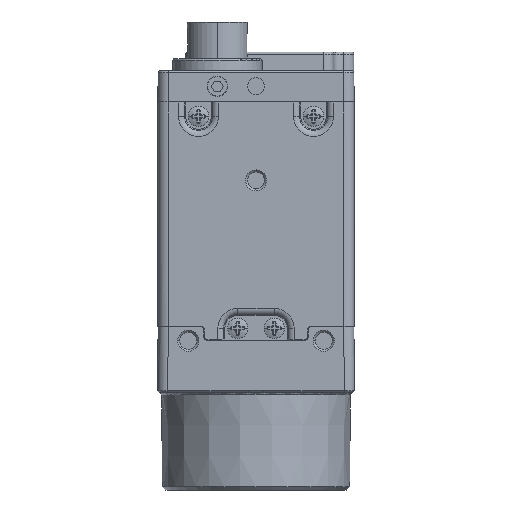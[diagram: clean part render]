
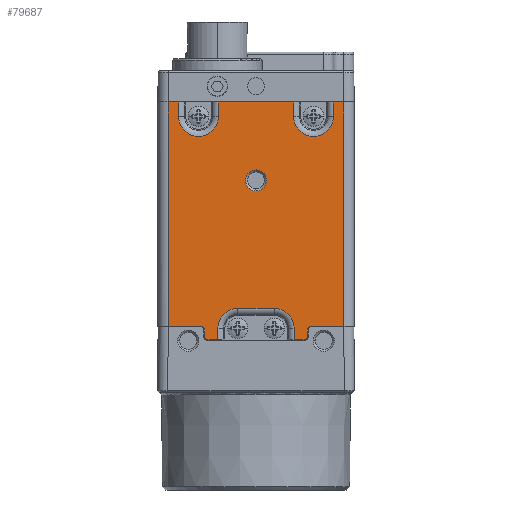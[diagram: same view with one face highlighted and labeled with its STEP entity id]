
A CAD part, front view. The second image highlights one B-rep face of the part: STEP entity #79687.
In plain terms, the highlighted planar face has unit normal (0, -1, 0).
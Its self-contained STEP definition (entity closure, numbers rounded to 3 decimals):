
#3748=DIRECTION('',(0.,0.,1.));
#3749=VECTOR('',#3748,33.165);
#3750=CARTESIAN_POINT('',(12.977,-14.4,4.217));
#3751=LINE('',#3750,#3749);
#3763=DIRECTION('',(1.,0.,0.));
#3764=VECTOR('',#3763,4.877);
#3765=CARTESIAN_POINT('',(8.1,-14.4,4.217));
#3766=LINE('',#3765,#3764);
#4068=DIRECTION('',(1.,0.,0.));
#4069=VECTOR('',#4068,4.877);
#4070=CARTESIAN_POINT('',(-12.977,-14.4,4.217));
#4071=LINE('',#4070,#4069);
#27743=DIRECTION('',(1.,0.,0.));
#27744=VECTOR('',#27743,1.461);
#27745=CARTESIAN_POINT('',(-7.1,-14.4,2.217));
#27746=LINE('',#27745,#27744);
#27765=DIRECTION('',(1.,0.,0.));
#27766=VECTOR('',#27765,1.461);
#27767=CARTESIAN_POINT('',(5.639,-14.4,
2.217));
#27768=LINE('',#27767,#27766);
#27871=DIRECTION('',(0.,0.,-1.));
#27872=VECTOR('',#27871,1.);
#27873=CARTESIAN_POINT('',(-7.583,-14.4,3.7));
#27874=LINE('',#27873,#27872);
#27879=DIRECTION('',(0.,0.,1.));
#27880=VECTOR('',#27879,33.165);
#27881=CARTESIAN_POINT('',(-12.977,-14.4,4.217));
#27882=LINE('',#27881,#27880);
#27883=CARTESIAN_POINT('',(-8.5,-14.4,35.25));
#27884=DIRECTION('',(0.,-1.,0.));
#27885=DIRECTION('',(-1.,0.,0.));
#27886=AXIS2_PLACEMENT_3D('',#27883,#27884,#27885);
#27888=CARTESIAN_POINT('',(8.5,-14.4,35.25));
#27889=DIRECTION('',(0.,-1.,0.));
#27890=DIRECTION('',(-1.,0.,0.));
#27891=AXIS2_PLACEMENT_3D('',#27888,#27889,#27890);
#27893=DIRECTION('',(0.,0.,1.));
#27894=VECTOR('',#27893,2.133);
#27895=CARTESIAN_POINT('',(11.439,-14.4,35.25));
#27896=LINE('',#27895,#27894);
#27897=CARTESIAN_POINT('',(8.1,-14.4,3.7));
#27898=DIRECTION('',(0.,-1.,0.));
#27899=DIRECTION('',(0.,0.,1.));
#27900=AXIS2_PLACEMENT_3D('',#27897,#27898,#27899);
#27902=CARTESIAN_POINT('',(7.1,-14.4,2.7));
#27903=DIRECTION('',(0.,1.,0.));
#27904=DIRECTION('',(1.,0.,0.));
#27905=AXIS2_PLACEMENT_3D('',#27902,#27903,#27904);
#27907=CARTESIAN_POINT('',(2.7,-14.4,3.95));
#27908=DIRECTION('',(0.,-1.,0.));
#27909=DIRECTION('',(1.,0.,0.));
#27910=AXIS2_PLACEMENT_3D('',#27907,#27908,#27909);
#27912=CARTESIAN_POINT('',(-2.7,-14.4,3.95));
#27913=DIRECTION('',(0.,-1.,0.));
#27914=DIRECTION('',(0.,0.,1.));
#27915=AXIS2_PLACEMENT_3D('',#27912,#27913,#27914);
#27917=CARTESIAN_POINT('',(-7.1,-14.4,2.7));
#27918=DIRECTION('',(0.,1.,0.));
#27919=DIRECTION('',(0.,0.,-1.));
#27920=AXIS2_PLACEMENT_3D('',#27917,#27918,#27919);
#27922=CARTESIAN_POINT('',(-8.1,-14.4,3.7));
#27923=DIRECTION('',(0.,-1.,0.));
#27924=DIRECTION('',(1.,0.,0.));
#27925=AXIS2_PLACEMENT_3D('',#27922,#27923,#27924);
#27927=CARTESIAN_POINT('',(0.,-14.4,25.8));
#27928=DIRECTION('',(0.,-1.,0.));
#27929=DIRECTION('',(0.,0.,1.));
#27930=AXIS2_PLACEMENT_3D('',#27927,#27928,#27929);
#27932=CARTESIAN_POINT('',(0.,-14.4,25.8));
#27933=DIRECTION('',(0.,-1.,0.));
#27934=DIRECTION('',(0.,0.,-1.));
#27935=AXIS2_PLACEMENT_3D('',#27932,#27933,#27934);
#27959=DIRECTION('',(-1.,0.,0.));
#27960=VECTOR('',#27959,1.538);
#27961=CARTESIAN_POINT('',(-11.439,-14.4,
37.383));
#27962=LINE('',#27961,#27960);
#28006=DIRECTION('',(-1.,0.,0.));
#28007=VECTOR('',#28006,1.538);
#28008=CARTESIAN_POINT('',(12.977,-14.4,37.383));
#28009=LINE('',#28008,#28007);
#28030=DIRECTION('',(-1.,0.,0.));
#28031=VECTOR('',#28030,11.122);
#28032=CARTESIAN_POINT('',(5.561,-14.4,
37.383));
#28033=LINE('',#28032,#28031);
#28092=DIRECTION('',(0.,0.,1.));
#28093=VECTOR('',#28092,2.133);
#28094=CARTESIAN_POINT('',(-11.439,-14.4,35.25));
#28095=LINE('',#28094,#28093);
#28096=DIRECTION('',(0.,0.,-1.));
#28097=VECTOR('',#28096,2.133);
#28098=CARTESIAN_POINT('',(-5.561,-14.4,37.383));
#28099=LINE('',#28098,#28097);
#28995=DIRECTION('',(0.,0.,1.));
#28996=VECTOR('',#28995,2.133);
#28997=CARTESIAN_POINT('',(5.561,-14.4,35.25));
#28998=LINE('',#28997,#28996);
#29850=DIRECTION('',(0.,0.,1.));
#29851=VECTOR('',#29850,1.);
#29852=CARTESIAN_POINT('',(7.583,-14.4,2.7));
#29853=LINE('',#29852,#29851);
#29866=DIRECTION('',(0.,0.,-1.));
#29867=VECTOR('',#29866,1.733);
#29868=CARTESIAN_POINT('',(5.639,-14.4,3.95));
#29869=LINE('',#29868,#29867);
#29933=DIRECTION('',(0.,0.,1.));
#29934=VECTOR('',#29933,1.733);
#29935=CARTESIAN_POINT('',(-5.639,-14.4,2.217));
#29936=LINE('',#29935,#29934);
#29950=DIRECTION('',(1.,0.,0.));
#29951=VECTOR('',#29950,5.4);
#29952=CARTESIAN_POINT('',(-2.7,-14.4,6.889));
#29953=LINE('',#29952,#29951);
#40555=CARTESIAN_POINT('',(-12.977,-14.4,4.217));
#40556=CARTESIAN_POINT('',(-12.977,-14.4,37.383));
#40557=VERTEX_POINT('',#40555);
#40558=VERTEX_POINT('',#40556);
#40559=CARTESIAN_POINT('',(-11.439,-14.4,
37.383));
#40560=VERTEX_POINT('',#40559);
#40561=CARTESIAN_POINT('',(-11.439,-14.4,35.25));
#40562=VERTEX_POINT('',#40561);
#40563=CARTESIAN_POINT('',(-5.561,-14.4,35.25));
#40564=VERTEX_POINT('',#40563);
#40565=CARTESIAN_POINT('',(-5.561,-14.4,37.383));
#40566=VERTEX_POINT('',#40565);
#40567=CARTESIAN_POINT('',(5.561,-14.4,
37.383));
#40568=VERTEX_POINT('',#40567);
#40569=CARTESIAN_POINT('',(5.561,-14.4,35.25));
#40570=VERTEX_POINT('',#40569);
#40571=CARTESIAN_POINT('',(11.439,-14.4,35.25));
#40572=VERTEX_POINT('',#40571);
#40573=CARTESIAN_POINT('',(11.439,-14.4,37.383));
#40574=VERTEX_POINT('',#40573);
#40575=CARTESIAN_POINT('',(12.977,-14.4,37.383));
#40576=VERTEX_POINT('',#40575);
#40577=CARTESIAN_POINT('',(12.977,-14.4,4.217));
#40578=VERTEX_POINT('',#40577);
#40579=CARTESIAN_POINT('',(7.583,-14.4,2.7));
#40580=CARTESIAN_POINT('',(7.583,-14.4,3.7));
#40581=VERTEX_POINT('',#40579);
#40582=VERTEX_POINT('',#40580);
#40583=CARTESIAN_POINT('',(7.1,-14.4,2.217));
#40584=VERTEX_POINT('',#40583);
#40585=CARTESIAN_POINT('',(5.639,-14.4,
2.217));
#40586=VERTEX_POINT('',#40585);
#40587=CARTESIAN_POINT('',(5.639,-14.4,3.95));
#40588=VERTEX_POINT('',#40587);
#40589=CARTESIAN_POINT('',(2.7,-14.4,6.889));
#40590=VERTEX_POINT('',#40589);
#40591=CARTESIAN_POINT('',(-2.7,-14.4,6.889));
#40592=VERTEX_POINT('',#40591);
#40593=CARTESIAN_POINT('',(-5.639,-14.4,3.95));
#40594=VERTEX_POINT('',#40593);
#40595=CARTESIAN_POINT('',(-5.639,-14.4,2.217));
#40596=VERTEX_POINT('',#40595);
#40597=CARTESIAN_POINT('',(-7.1,-14.4,2.217));
#40598=VERTEX_POINT('',#40597);
#40599=CARTESIAN_POINT('',(-7.583,-14.4,2.7));
#40600=VERTEX_POINT('',#40599);
#40601=CARTESIAN_POINT('',(-7.583,-14.4,3.7));
#40602=VERTEX_POINT('',#40601);
#40603=CARTESIAN_POINT('',(0.,-14.4,27.35));
#40604=CARTESIAN_POINT('',(0.,-14.4,24.25));
#40605=VERTEX_POINT('',#40603);
#40606=VERTEX_POINT('',#40604);
#40627=CARTESIAN_POINT('',(8.1,-14.4,4.217));
#40628=VERTEX_POINT('',#40627);
#40631=CARTESIAN_POINT('',(-8.1,-14.4,4.217));
#40632=VERTEX_POINT('',#40631);
#79631=CARTESIAN_POINT('',(0.,-14.4,19.8));
#79632=DIRECTION('',(0.,1.,0.));
#79633=DIRECTION('',(-1.,0.,0.));
#79634=AXIS2_PLACEMENT_3D('',#79631,#79632,#79633);
#79635=PLANE('',#79634);
#79636=ORIENTED_EDGE('',*,*,#47101,.T.);
#79638=ORIENTED_EDGE('',*,*,#79637,.F.);
#79640=ORIENTED_EDGE('',*,*,#79639,.F.);
#79642=ORIENTED_EDGE('',*,*,#79641,.T.);
#79644=ORIENTED_EDGE('',*,*,#79643,.F.);
#79646=ORIENTED_EDGE('',*,*,#79645,.F.);
#79648=ORIENTED_EDGE('',*,*,#79647,.F.);
#79650=ORIENTED_EDGE('',*,*,#79649,.T.);
#79652=ORIENTED_EDGE('',*,*,#79651,.T.);
#79654=ORIENTED_EDGE('',*,*,#79653,.F.);
#79655=ORIENTED_EDGE('',*,*,#47318,.F.);
#79656=ORIENTED_EDGE('',*,*,#47342,.F.);
#79658=ORIENTED_EDGE('',*,*,#79657,.T.);
#79660=ORIENTED_EDGE('',*,*,#79659,.F.);
#79662=ORIENTED_EDGE('',*,*,#79661,.T.);
#79663=ORIENTED_EDGE('',*,*,#79457,.F.);
#79665=ORIENTED_EDGE('',*,*,#79664,.F.);
#79667=ORIENTED_EDGE('',*,*,#79666,.T.);
#79669=ORIENTED_EDGE('',*,*,#79668,.F.);
#79671=ORIENTED_EDGE('',*,*,#79670,.T.);
#79673=ORIENTED_EDGE('',*,*,#79672,.F.);
#79674=ORIENTED_EDGE('',*,*,#79445,.F.);
#79675=ORIENTED_EDGE('',*,*,#79598,.T.);
#79676=ORIENTED_EDGE('',*,*,#79613,.F.);
#79677=ORIENTED_EDGE('',*,*,#79626,.T.);
#79678=ORIENTED_EDGE('',*,*,#47886,.F.);
#79679=EDGE_LOOP('',(#79636,#79638,#79640,#79642,#79644,#79646,#79648,#79650,
#79652,#79654,#79655,#79656,#79658,#79660,#79662,#79663,#79665,#79667,#79669,
#79671,#79673,#79674,#79675,#79676,#79677,#79678));
#79680=FACE_OUTER_BOUND('',#79679,.F.);
#79682=ORIENTED_EDGE('',*,*,#79681,.T.);
#79684=ORIENTED_EDGE('',*,*,#79683,.T.);
#79685=EDGE_LOOP('',(#79682,#79684));
#79686=FACE_BOUND('',#79685,.F.);
#79687=ADVANCED_FACE('',(#79680,#79686),#79635,.F.);
#27887=CIRCLE('',#27886,2.939);
#27892=CIRCLE('',#27891,2.939);
#27901=CIRCLE('',#27900,0.517);
#27906=CIRCLE('',#27905,0.483);
#27911=CIRCLE('',#27910,2.939);
#27916=CIRCLE('',#27915,2.939);
#27921=CIRCLE('',#27920,0.483);
#27926=CIRCLE('',#27925,0.517);
#27931=CIRCLE('',#27930,1.55);
#27936=CIRCLE('',#27935,1.55);
#47101=EDGE_CURVE('',#40557,#40558,#27882,.T.);
#47318=EDGE_CURVE('',#40578,#40576,#3751,.T.);
#47342=EDGE_CURVE('',#40628,#40578,#3766,.T.);
#47886=EDGE_CURVE('',#40557,#40632,#4071,.T.);
#79445=EDGE_CURVE('',#40598,#40596,#27746,.T.);
#79457=EDGE_CURVE('',#40586,#40584,#27768,.T.);
#79598=EDGE_CURVE('',#40598,#40600,#27921,.T.);
#79613=EDGE_CURVE('',#40602,#40600,#27874,.T.);
#79626=EDGE_CURVE('',#40602,#40632,#27926,.T.);
#79637=EDGE_CURVE('',#40560,#40558,#27962,.T.);
#79639=EDGE_CURVE('',#40562,#40560,#28095,.T.);
#79641=EDGE_CURVE('',#40562,#40564,#27887,.T.);
#79643=EDGE_CURVE('',#40566,#40564,#28099,.T.);
#79645=EDGE_CURVE('',#40568,#40566,#28033,.T.);
#79647=EDGE_CURVE('',#40570,#40568,#28998,.T.);
#79649=EDGE_CURVE('',#40570,#40572,#27892,.T.);
#79651=EDGE_CURVE('',#40572,#40574,#27896,.T.);
#79653=EDGE_CURVE('',#40576,#40574,#28009,.T.);
#79657=EDGE_CURVE('',#40628,#40582,#27901,.T.);
#79659=EDGE_CURVE('',#40581,#40582,#29853,.T.);
#79661=EDGE_CURVE('',#40581,#40584,#27906,.T.);
#79664=EDGE_CURVE('',#40588,#40586,#29869,.T.);
#79666=EDGE_CURVE('',#40588,#40590,#27911,.T.);
#79668=EDGE_CURVE('',#40592,#40590,#29953,.T.);
#79670=EDGE_CURVE('',#40592,#40594,#27916,.T.);
#79672=EDGE_CURVE('',#40596,#40594,#29936,.T.);
#79681=EDGE_CURVE('',#40605,#40606,#27931,.T.);
#79683=EDGE_CURVE('',#40606,#40605,#27936,.T.);
